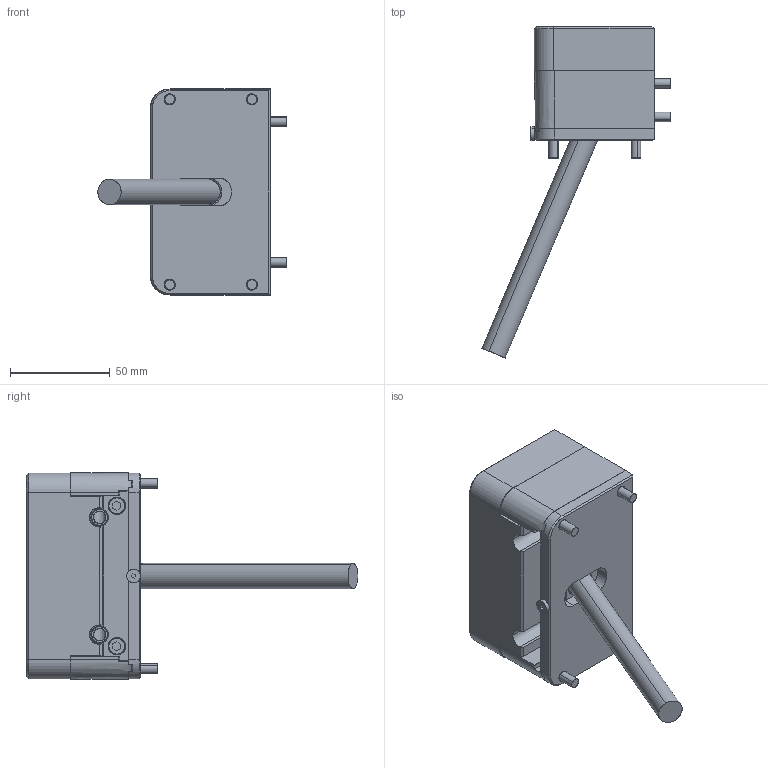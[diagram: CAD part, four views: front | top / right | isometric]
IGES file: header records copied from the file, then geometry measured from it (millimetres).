
Start section: SolidWorks IGES file using analytic representation for surfaces
Global section: file name: C:\temp\GO\Files\SL-40-40.igs; native system: SolidWorks 2023; preprocessor: SolidWorks 2023; author: andrew.sweeney; date: 250805.173212; units: inch
Bounding box: 94.3 x 166.22 x 103.23 mm (x, y, z)
Surface area: 93534.5 mm2 (no closed solid volume)
Topology: 0 solids, 0 shells, 588 faces, 8027 edges, 8015 vertices
Faces by surface type: bspline 323, revolution 265
